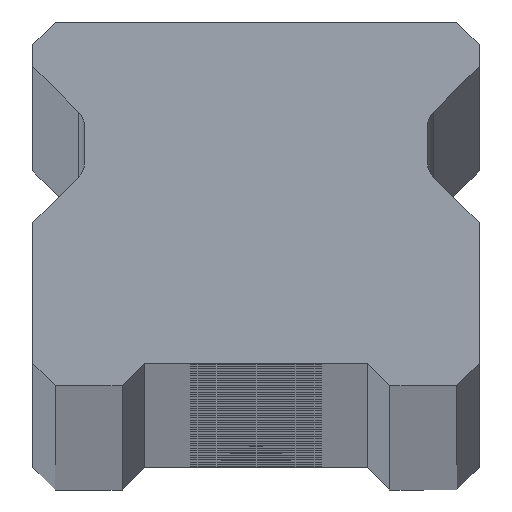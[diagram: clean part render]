
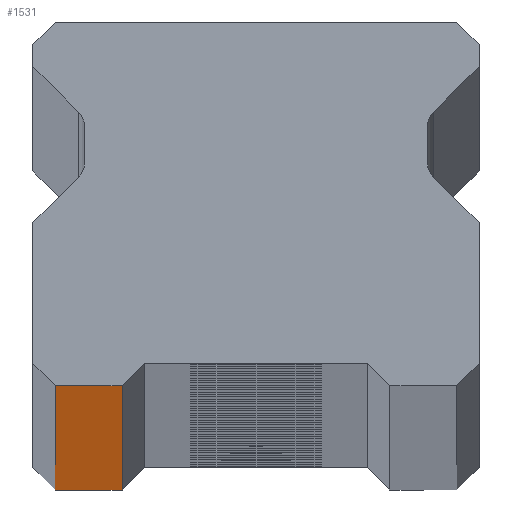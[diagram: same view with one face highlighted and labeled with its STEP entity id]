
A CAD part, top view. The second image highlights one B-rep face of the part: STEP entity #1531.
In plain terms, the highlighted planar face has unit normal (0, -1, 0).
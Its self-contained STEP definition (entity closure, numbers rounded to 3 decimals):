
#232 = LINE ( 'NONE', #3298, #1294 ) ;
#344 = DIRECTION ( 'NONE',  ( 0., 1., 0. ) ) ;
#550 = CARTESIAN_POINT ( 'NONE',  ( -9., 0., 1340. ) ) ;
#721 = VECTOR ( 'NONE', #1256, 1000. ) ;
#758 = EDGE_LOOP ( 'NONE', ( #5759, #5528, #3020, #5028 ) ) ;
#1095 = EDGE_CURVE ( 'NONE', #1859, #1715, #5283, .T. ) ;
#1230 = CARTESIAN_POINT ( 'NONE',  ( -9., 0., 1340. ) ) ;
#1256 = DIRECTION ( 'NONE',  ( 0., 0., -1. ) ) ;
#1294 = VECTOR ( 'NONE', #6338, 1000. ) ;
#1295 = VERTEX_POINT ( 'NONE', #550 ) ;
#1531 = ADVANCED_FACE ( 'NONE', ( #3000 ), #7671, .F. ) ;
#1715 = VERTEX_POINT ( 'NONE', #7199 ) ;
#1859 = VERTEX_POINT ( 'NONE', #6348 ) ;
#2997 = EDGE_CURVE ( 'NONE', #1295, #1859, #4405, .T. ) ;
#3000 = FACE_OUTER_BOUND ( 'NONE', #758, .T. ) ;
#3020 = ORIENTED_EDGE ( 'NONE', *, *, #3350, .F. ) ;
#3298 = CARTESIAN_POINT ( 'NONE',  ( 10., 0., 1340. ) ) ;
#3350 = EDGE_CURVE ( 'NONE', #1295, #6585, #232, .T. ) ;
#3763 = DIRECTION ( 'NONE',  ( 0., 0., 1. ) ) ;
#3960 = DIRECTION ( 'NONE',  ( -1., 0., 0. ) ) ;
#4405 = LINE ( 'NONE', #1230, #721 ) ;
#4749 = VECTOR ( 'NONE', #3763, 1000. ) ;
#4900 = CARTESIAN_POINT ( 'NONE',  ( -6., 0., -1340. ) ) ;
#4996 = DIRECTION ( 'NONE',  ( 1., 0., 0. ) ) ;
#5028 = ORIENTED_EDGE ( 'NONE', *, *, #2997, .T. ) ;
#5186 = VECTOR ( 'NONE', #4996, 1000. ) ;
#5283 = LINE ( 'NONE', #6393, #5186 ) ;
#5528 = ORIENTED_EDGE ( 'NONE', *, *, #7606, .T. ) ;
#5759 = ORIENTED_EDGE ( 'NONE', *, *, #1095, .T. ) ;
#6338 = DIRECTION ( 'NONE',  ( 1., 0., 0. ) ) ;
#6348 = CARTESIAN_POINT ( 'NONE',  ( -9., 0., -1340. ) ) ;
#6393 = CARTESIAN_POINT ( 'NONE',  ( 10., 0., -1340. ) ) ;
#6476 = CARTESIAN_POINT ( 'NONE',  ( 10., 0., 1340. ) ) ;
#6585 = VERTEX_POINT ( 'NONE', #7296 ) ;
#6810 = LINE ( 'NONE', #4900, #4749 ) ;
#7199 = CARTESIAN_POINT ( 'NONE',  ( -6., 0., -1340. ) ) ;
#7296 = CARTESIAN_POINT ( 'NONE',  ( -6., 0., 1340. ) ) ;
#7606 = EDGE_CURVE ( 'NONE', #1715, #6585, #6810, .T. ) ;
#7670 = AXIS2_PLACEMENT_3D ( 'NONE', #6476, #344, #3960 ) ;
#7671 = PLANE ( 'NONE',  #7670 ) ;
